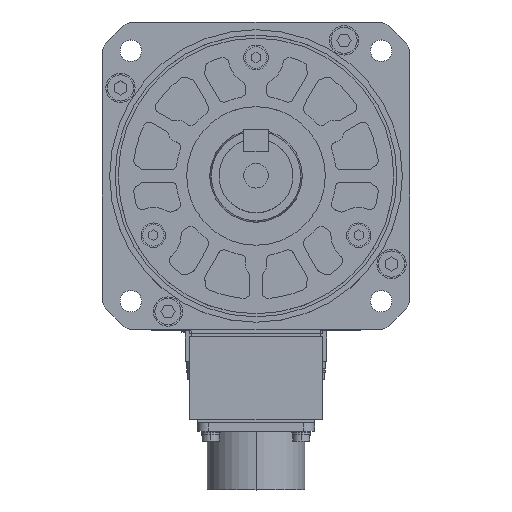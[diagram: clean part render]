
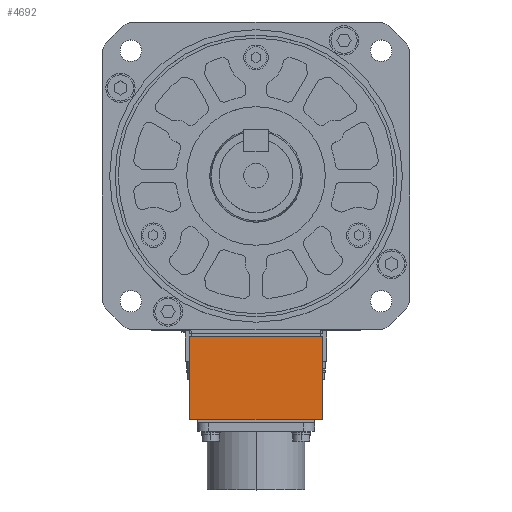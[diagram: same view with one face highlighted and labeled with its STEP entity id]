
A CAD part, top view. The second image highlights one B-rep face of the part: STEP entity #4692.
In plain terms, the highlighted planar face has unit normal (0, 0, 1).
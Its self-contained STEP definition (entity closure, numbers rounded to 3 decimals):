
#4571 = EDGE_CURVE ( 'NONE', #10359, #4613, #16176, .T. ) ;
#4613 = VERTEX_POINT ( 'NONE', #16198 ) ;
#4692 = ADVANCED_FACE ( 'NONE', ( #16274 ), #16273, .F. ) ;
#4695 = EDGE_LOOP ( 'NONE', ( #4696, #4699, #4700, #4701 ) ) ;
#4696 = ORIENTED_EDGE ( 'NONE', *, *, #4697, .T. ) ;
#4697 = EDGE_CURVE ( 'NONE', #4613, #10215, #16267, .T. ) ;
#4699 = ORIENTED_EDGE ( 'NONE', *, *, #10246, .F. ) ;
#4700 = ORIENTED_EDGE ( 'NONE', *, *, #10277, .F. ) ;
#4701 = ORIENTED_EDGE ( 'NONE', *, *, #4571, .T. ) ;
#10213 = VERTEX_POINT ( 'NONE', #24723 ) ;
#10215 = VERTEX_POINT ( 'NONE', #24721 ) ;
#10246 = EDGE_CURVE ( 'NONE', #10213, #10215, #24801, .T. ) ;
#10277 = EDGE_CURVE ( 'NONE', #10359, #10213, #24872, .T. ) ;
#10359 = VERTEX_POINT ( 'NONE', #25052 ) ;
#16173 = DIRECTION ( 'NONE',  ( -1., 0., 0. ) ) ;
#16174 = VECTOR ( 'NONE', #16173, 1000. ) ;
#16175 = CARTESIAN_POINT ( 'NONE',  ( 21.5, -52., -95.7 ) ) ;
#16176 = LINE ( 'NONE', #16175, #16174 ) ;
#16198 = CARTESIAN_POINT ( 'NONE',  ( -21.5, -52., -95.7 ) ) ;
#16264 = DIRECTION ( 'NONE',  ( 0., -1., 0. ) ) ;
#16265 = VECTOR ( 'NONE', #16264, 1000. ) ;
#16266 = CARTESIAN_POINT ( 'NONE',  ( -21.5, -52., -95.7 ) ) ;
#16267 = LINE ( 'NONE', #16266, #16265 ) ;
#16269 = DIRECTION ( 'NONE',  ( -1., 0., 0. ) ) ;
#16270 = DIRECTION ( 'NONE',  ( 0., 0., -1. ) ) ;
#16271 = CARTESIAN_POINT ( 'NONE',  ( 21.5, -52., -95.7 ) ) ;
#16272 = AXIS2_PLACEMENT_3D ( 'NONE', #16271, #16270, #16269 ) ;
#16273 = PLANE ( 'NONE',  #16272 ) ;
#16274 = FACE_OUTER_BOUND ( 'NONE', #4695, .T. ) ;
#24721 = CARTESIAN_POINT ( 'NONE',  ( -21.5, -79., -95.7 ) ) ;
#24723 = CARTESIAN_POINT ( 'NONE',  ( 21.5, -79., -95.7 ) ) ;
#24797 = DIRECTION ( 'NONE',  ( -1., 0., 0. ) ) ;
#24798 = VECTOR ( 'NONE', #24797, 1000. ) ;
#24799 = CARTESIAN_POINT ( 'NONE',  ( 21.5, -79., -95.7 ) ) ;
#24801 = LINE ( 'NONE', #24799, #24798 ) ;
#24869 = DIRECTION ( 'NONE',  ( 0., -1., 0. ) ) ;
#24870 = VECTOR ( 'NONE', #24869, 1000. ) ;
#24871 = CARTESIAN_POINT ( 'NONE',  ( 21.5, -52., -95.7 ) ) ;
#24872 = LINE ( 'NONE', #24871, #24870 ) ;
#25052 = CARTESIAN_POINT ( 'NONE',  ( 21.5, -52., -95.7 ) ) ;
